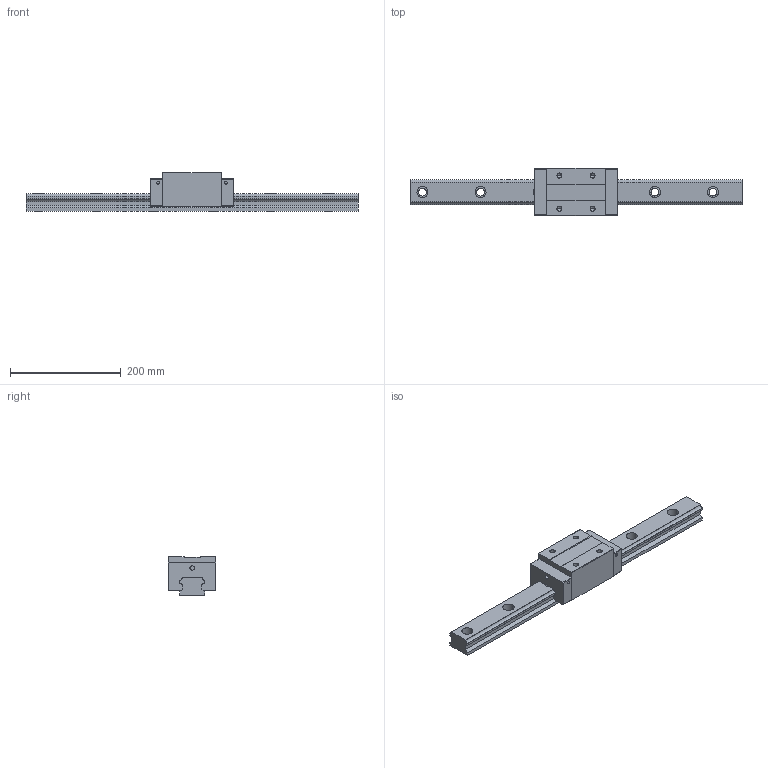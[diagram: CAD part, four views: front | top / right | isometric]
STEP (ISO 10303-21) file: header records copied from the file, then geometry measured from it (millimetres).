
FILE_DESCRIPTION (( 'STEP AP203' ), '1' );
FILE_NAME ('TRH45VL-ZN.STEP', '2024-05-20T08:31:37', ( '' ), ( '' ), 'SwSTEP 2.0', 'SolidWorks 2022', '' );
FILE_SCHEMA (( 'CONFIG_CONTROL_DESIGN' ));
Length unit declared in the file: millimetre
Products named in the file (1): TRH45VL-ZN
Bounding box: 600 x 85.5 x 70 mm (x, y, z)
Volume: 1310693.4 mm3; surface area: 168740.7 mm2
Topology: 2 solids, 2 shells, 180 faces, 472 edges, 304 vertices
Faces by surface type: plane 84, cylinder 80, cone 16
Entity records: 5607 total; most frequent: DIRECTION 994, CARTESIAN_POINT 949, ORIENTED_EDGE 928, EDGE_CURVE 464, AXIS2_PLACEMENT_3D 349, VERTEX_POINT 304, LINE 296, VECTOR 296
